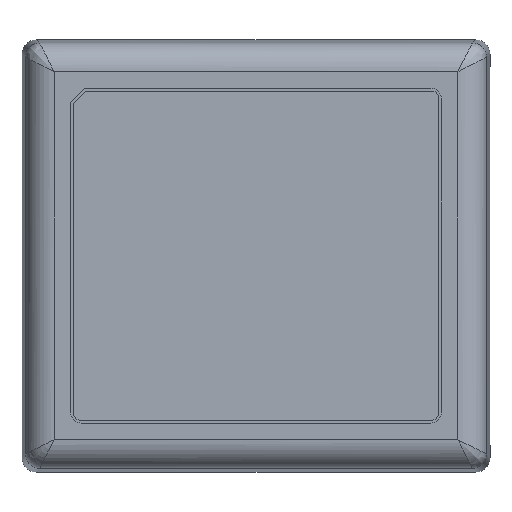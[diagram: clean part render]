
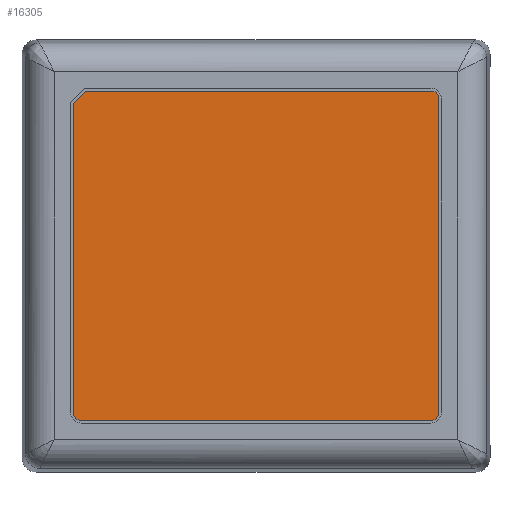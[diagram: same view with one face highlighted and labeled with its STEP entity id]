
A CAD part, top view. The second image highlights one B-rep face of the part: STEP entity #16305.
In plain terms, the highlighted planar face has unit normal (0, 0, 1) as drawn and (0, 1, 0) by its records, which use the part's own axes.
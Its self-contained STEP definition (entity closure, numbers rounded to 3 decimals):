
#214 = DIRECTION ( 'NONE',  ( -0.707, 0., 0.707 ) ) ;
#2225 = EDGE_CURVE ( 'NONE', #14730, #45025, #36181, .T. ) ;
#2393 = CARTESIAN_POINT ( 'NONE',  ( 25.501, 0., -22.046 ) ) ;
#3306 = CARTESIAN_POINT ( 'NONE',  ( -23.82, 0., -23.001 ) ) ;
#3607 = ORIENTED_EDGE ( 'NONE', *, *, #36987, .T. ) ;
#4030 = CARTESIAN_POINT ( 'NONE',  ( 24.546, 0., 23.001 ) ) ;
#4920 = CARTESIAN_POINT ( 'NONE',  ( -25.501, 0., -21.32 ) ) ;
#5141 = LINE ( 'NONE', #4920, #43936 ) ;
#5691 = DIRECTION ( 'NONE',  ( 1., 0., 0. ) ) ;
#6395 = CARTESIAN_POINT ( 'NONE',  ( 24.546, 0., -23.001 ) ) ;
#6531 = CARTESIAN_POINT ( 'NONE',  ( -24.546, 0., 22.046 ) ) ;
#7452 = CARTESIAN_POINT ( 'NONE',  ( 24.546, 0., -23.001 ) ) ;
#7876 = VECTOR ( 'NONE', #38803, 1000. ) ;
#8529 = ORIENTED_EDGE ( 'NONE', *, *, #36858, .T. ) ;
#9145 = LINE ( 'NONE', #16246, #39311 ) ;
#9750 = DIRECTION ( 'NONE',  ( 0., 1., 0. ) ) ;
#10674 = LINE ( 'NONE', #7452, #7876 ) ;
#11070 = FACE_OUTER_BOUND ( 'NONE', #42052, .T. ) ;
#11722 = CARTESIAN_POINT ( 'NONE',  ( -23.82, 0., -23.001 ) ) ;
#13006 = ORIENTED_EDGE ( 'NONE', *, *, #26687, .T. ) ;
#14730 = VERTEX_POINT ( 'NONE', #3306 ) ;
#15495 = VERTEX_POINT ( 'NONE', #25208 ) ;
#15596 = CARTESIAN_POINT ( 'NONE',  ( 24.546, 0., -22.046 ) ) ;
#15712 = DIRECTION ( 'NONE',  ( 0., 0., 1. ) ) ;
#16246 = CARTESIAN_POINT ( 'NONE',  ( -24.546, 0., 23.001 ) ) ;
#16305 = ADVANCED_FACE ( 'NONE', ( #11070 ), #17548, .F. ) ;
#17548 = PLANE ( 'NONE',  #26110 ) ;
#18213 = EDGE_CURVE ( 'NONE', #32464, #15495, #27560, .T. ) ;
#19178 = AXIS2_PLACEMENT_3D ( 'NONE', #22363, #21902, #39254 ) ;
#20753 = CIRCLE ( 'NONE', #44372, 0.955 ) ;
#20939 = EDGE_CURVE ( 'NONE', #32350, #28532, #28962, .T. ) ;
#21609 = EDGE_CURVE ( 'NONE', #25906, #32350, #39056, .T. ) ;
#21902 = DIRECTION ( 'NONE',  ( 0., 1., 0. ) ) ;
#22131 = ORIENTED_EDGE ( 'NONE', *, *, #2225, .T. ) ;
#22363 = CARTESIAN_POINT ( 'NONE',  ( 24.546, 0., 22.046 ) ) ;
#22709 = DIRECTION ( 'NONE',  ( 0., 0., -1. ) ) ;
#22855 = CARTESIAN_POINT ( 'NONE',  ( 25.501, 0., 22.046 ) ) ;
#24274 = VECTOR ( 'NONE', #43046, 1000. ) ;
#24645 = DIRECTION ( 'NONE',  ( 0., -1., 0. ) ) ;
#24867 = CARTESIAN_POINT ( 'NONE',  ( -24.546, 0., 22.046 ) ) ;
#25208 = CARTESIAN_POINT ( 'NONE',  ( -24.546, 0., 23.001 ) ) ;
#25906 = VERTEX_POINT ( 'NONE', #4030 ) ;
#26110 = AXIS2_PLACEMENT_3D ( 'NONE', #24867, #24645, #35298 ) ;
#26136 = ORIENTED_EDGE ( 'NONE', *, *, #21609, .T. ) ;
#26687 = EDGE_CURVE ( 'NONE', #15495, #25906, #9145, .T. ) ;
#27560 = CIRCLE ( 'NONE', #43788, 0.955 ) ;
#28532 = VERTEX_POINT ( 'NONE', #2393 ) ;
#28962 = LINE ( 'NONE', #39807, #24274 ) ;
#30433 = ORIENTED_EDGE ( 'NONE', *, *, #41987, .T. ) ;
#30926 = DIRECTION ( 'NONE',  ( 0., 0., -1. ) ) ;
#32350 = VERTEX_POINT ( 'NONE', #22855 ) ;
#32464 = VERTEX_POINT ( 'NONE', #37901 ) ;
#32927 = DIRECTION ( 'NONE',  ( 0., 1., 0. ) ) ;
#35298 = DIRECTION ( 'NONE',  ( 0., 0., -1. ) ) ;
#36181 = LINE ( 'NONE', #11722, #41238 ) ;
#36255 = ORIENTED_EDGE ( 'NONE', *, *, #20939, .T. ) ;
#36427 = ORIENTED_EDGE ( 'NONE', *, *, #18213, .T. ) ;
#36858 = EDGE_CURVE ( 'NONE', #43052, #14730, #10674, .T. ) ;
#36987 = EDGE_CURVE ( 'NONE', #45025, #32464, #5141, .T. ) ;
#37901 = CARTESIAN_POINT ( 'NONE',  ( -25.501, 0., 22.046 ) ) ;
#38803 = DIRECTION ( 'NONE',  ( -1., 0., 0. ) ) ;
#39056 = CIRCLE ( 'NONE', #19178, 0.955 ) ;
#39254 = DIRECTION ( 'NONE',  ( 0., 0., -1. ) ) ;
#39311 = VECTOR ( 'NONE', #5691, 1000. ) ;
#39703 = CARTESIAN_POINT ( 'NONE',  ( -25.501, 0., -21.32 ) ) ;
#39807 = CARTESIAN_POINT ( 'NONE',  ( 25.501, 0., 22.046 ) ) ;
#41238 = VECTOR ( 'NONE', #214, 1000. ) ;
#41987 = EDGE_CURVE ( 'NONE', #28532, #43052, #20753, .T. ) ;
#42052 = EDGE_LOOP ( 'NONE', ( #8529, #22131, #3607, #36427, #13006, #26136, #36255, #30433 ) ) ;
#43046 = DIRECTION ( 'NONE',  ( 0., 0., -1. ) ) ;
#43052 = VERTEX_POINT ( 'NONE', #6395 ) ;
#43788 = AXIS2_PLACEMENT_3D ( 'NONE', #6531, #9750, #30926 ) ;
#43936 = VECTOR ( 'NONE', #15712, 1000. ) ;
#44372 = AXIS2_PLACEMENT_3D ( 'NONE', #15596, #32927, #22709 ) ;
#45025 = VERTEX_POINT ( 'NONE', #39703 ) ;
